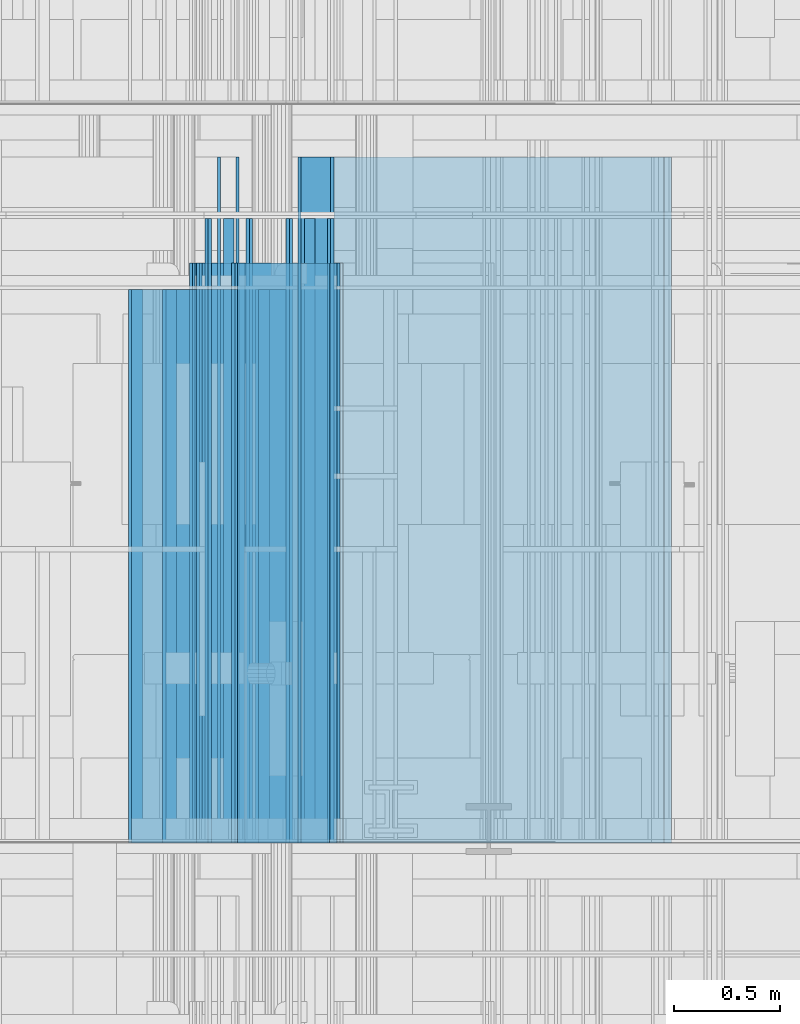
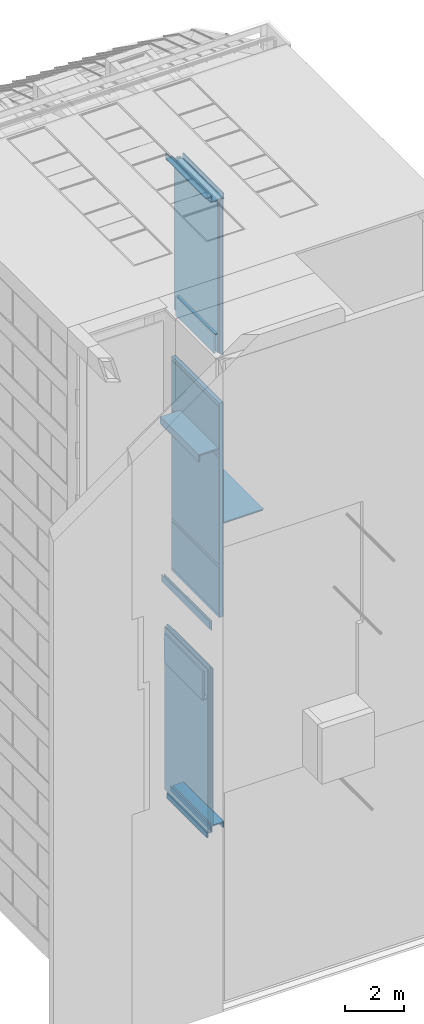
# One storey, part 106 of 583: 61 building element parts, 21 elements without a shape of their own.
"""IFC2X3 building model written with IfcOpenShell, lengths in metres."""

from ifc_helpers import new_model, entity, si_unit, converted_unit, derived_unit, money_unit, direction, frame, frame_2d, origin_with_axes, place, context, subcontext, project, spatial, polyline, rectangle, outline, extrude, material, type_object, element, aggregate, save


model = new_model("IFC2X3")

# Units and contexts
model_context = context("Model", 3, precision=1e-05, world=origin_with_axes(), true_north=direction((0.0, 1.0)))
body_context = subcontext(model_context, "Body", "Model", "MODEL_VIEW", scale=1.0)
ifc_project = project(units=[si_unit("LENGTHUNIT", "METRE"), si_unit("AREAUNIT", "SQUARE_METRE"), si_unit("VOLUMEUNIT", "CUBIC_METRE"), si_unit("ABSORBEDDOSEUNIT", "GRAY"), si_unit("AMOUNTOFSUBSTANCEUNIT", "MOLE"), si_unit("DOSEEQUIVALENTUNIT", "SIEVERT"), si_unit("ELECTRICCAPACITANCEUNIT", "FARAD"), si_unit("ELECTRICCHARGEUNIT", "COULOMB"), si_unit("ELECTRICCONDUCTANCEUNIT", "SIEMENS"), si_unit("ELECTRICCURRENTUNIT", "AMPERE"), si_unit("ELECTRICRESISTANCEUNIT", "OHM"), si_unit("ELECTRICVOLTAGEUNIT", "VOLT"), si_unit("ENERGYUNIT", "JOULE"), si_unit("FORCEUNIT", "NEWTON"), si_unit("FREQUENCYUNIT", "HERTZ"), si_unit("ILLUMINANCEUNIT", "LUX"), si_unit("INDUCTANCEUNIT", "HENRY"), si_unit("LUMINOUSFLUXUNIT", "LUMEN"), si_unit("LUMINOUSINTENSITYUNIT", "CANDELA"), si_unit("MAGNETICFLUXDENSITYUNIT", "TESLA"), si_unit("MAGNETICFLUXUNIT", "WEBER"), si_unit("MASSUNIT", "GRAM"), converted_unit("PLANEANGLEUNIT", "degree", entity("IfcReal", 0.0174532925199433), si_unit("PLANEANGLEUNIT", "RADIAN"), dimensions=[0, 0, 0, 0, 0, 0, 0]), si_unit("POWERUNIT", "WATT"), si_unit("PRESSUREUNIT", "PASCAL"), si_unit("RADIOACTIVITYUNIT", "BECQUEREL"), si_unit("SOLIDANGLEUNIT", "STERADIAN"), si_unit("THERMODYNAMICTEMPERATUREUNIT", "KELVIN"), si_unit("TIMEUNIT", "SECOND"), derived_unit("ACCELERATIONUNIT", [(si_unit("LENGTHUNIT", "METRE"), 1), (si_unit("TIMEUNIT", "SECOND"), -2)]), derived_unit("ANGULARVELOCITYUNIT", [(converted_unit("PLANEANGLEUNIT", "degree", entity("IfcReal", 0.0174532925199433), si_unit("PLANEANGLEUNIT", "RADIAN"), dimensions=[0, 0, 0, 0, 0, 0, 0]), 1), (si_unit("TIMEUNIT", "SECOND"), -1)]), derived_unit("CURVATUREUNIT", [(converted_unit("PLANEANGLEUNIT", "degree", entity("IfcReal", 0.0174532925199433), si_unit("PLANEANGLEUNIT", "RADIAN"), dimensions=[0, 0, 0, 0, 0, 0, 0]), 1), (si_unit("LENGTHUNIT", "METRE"), -1)]), derived_unit("DYNAMICVISCOSITYUNIT", [(si_unit("PRESSUREUNIT", "PASCAL"), 1), (si_unit("TIMEUNIT", "SECOND"), 1)]), derived_unit("HEATFLUXDENSITYUNIT", [(si_unit("POWERUNIT", "WATT"), 1), (si_unit("LENGTHUNIT", "METRE"), -2)]), derived_unit("HEATINGVALUEUNIT", [(si_unit("ENERGYUNIT", "JOULE"), 1), (si_unit("MASSUNIT", "GRAM"), -1)]), derived_unit("INTEGERCOUNTRATEUNIT", [(si_unit("TIMEUNIT", "SECOND"), -1)]), derived_unit("IONCONCENTRATIONUNIT", [(si_unit("MASSUNIT", "GRAM"), 1), (si_unit("VOLUMEUNIT", "CUBIC_METRE"), -1)]), derived_unit("ISOTHERMALMOISTURECAPACITYUNIT", [(si_unit("VOLUMEUNIT", "CUBIC_METRE"), 1), (si_unit("MASSUNIT", "GRAM"), -1)]), derived_unit("KINEMATICVISCOSITYUNIT", [(si_unit("AREAUNIT", "SQUARE_METRE"), 1), (si_unit("TIMEUNIT", "SECOND"), -1)]), derived_unit("LINEARFORCEUNIT", [(si_unit("FORCEUNIT", "NEWTON"), 1), (si_unit("LENGTHUNIT", "METRE"), -1)]), derived_unit("LINEARMOMENTUNIT", [(si_unit("FORCEUNIT", "NEWTON"), 1), (si_unit("LENGTHUNIT", "METRE"), -1)]), derived_unit("LINEARSTIFFNESSUNIT", [(si_unit("FORCEUNIT", "NEWTON"), 1), (si_unit("LENGTHUNIT", "METRE"), -1)]), derived_unit("LINEARVELOCITYUNIT", [(si_unit("LENGTHUNIT", "METRE"), 1), (si_unit("TIMEUNIT", "SECOND"), -1)]), derived_unit("LUMINOUSINTENSITYDISTRIBUTIONUNIT", [(si_unit("LUMINOUSINTENSITYUNIT", "CANDELA"), 1), (si_unit("LUMINOUSFLUXUNIT", "LUMEN"), -1)]), derived_unit("MASSDENSITYUNIT", [(si_unit("MASSUNIT", "GRAM"), 1), (si_unit("VOLUMEUNIT", "CUBIC_METRE"), -1)]), derived_unit("MASSFLOWRATEUNIT", [(si_unit("MASSUNIT", "GRAM"), 1), (si_unit("TIMEUNIT", "SECOND"), -1)]), derived_unit("MASSPERLENGTHUNIT", [(si_unit("MASSUNIT", "GRAM"), 1), (si_unit("LENGTHUNIT", "METRE"), -1)]), derived_unit("MODULUSOFELASTICITYUNIT", [(si_unit("FORCEUNIT", "NEWTON"), 1), (si_unit("AREAUNIT", "SQUARE_METRE"), -1)]), derived_unit("MODULUSOFLINEARSUBGRADEREACTIONUNIT", [(si_unit("FORCEUNIT", "NEWTON"), 1), (si_unit("LENGTHUNIT", "METRE"), -2)]), derived_unit("MODULUSOFROTATIONALSUBGRADEREACTIONUNIT", [(si_unit("FORCEUNIT", "NEWTON"), 1), (si_unit("LENGTHUNIT", "METRE"), 1)]), derived_unit("MODULUSOFSUBGRADEREACTIONUNIT", [(si_unit("FORCEUNIT", "NEWTON"), 1), (si_unit("VOLUMEUNIT", "CUBIC_METRE"), -1)]), derived_unit("MOISTUREDIFFUSIVITYUNIT", [(si_unit("VOLUMEUNIT", "CUBIC_METRE"), 1), (si_unit("TIMEUNIT", "SECOND"), -1)]), derived_unit("MOLECULARWEIGHTUNIT", [(si_unit("MASSUNIT", "GRAM"), 1), (si_unit("AMOUNTOFSUBSTANCEUNIT", "MOLE"), -1)]), derived_unit("PLANARFORCEUNIT", [(si_unit("FORCEUNIT", "NEWTON"), 1), (si_unit("LENGTHUNIT", "METRE"), -2)]), derived_unit("ROTATIONALFREQUENCYUNIT", [(si_unit("TIMEUNIT", "SECOND"), -1)]), derived_unit("ROTATIONALMASSUNIT", [(si_unit("MASSUNIT", "GRAM"), 1), (si_unit("LENGTHUNIT", "METRE"), 2)]), derived_unit("ROTATIONALSTIFFNESSUNIT", [(si_unit("FORCEUNIT", "NEWTON"), 1), (si_unit("LENGTHUNIT", "METRE"), 1), (converted_unit("PLANEANGLEUNIT", "degree", entity("IfcReal", 0.0174532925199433), si_unit("PLANEANGLEUNIT", "RADIAN"), dimensions=[0, 0, 0, 0, 0, 0, 0]), -1)]), derived_unit("SECTIONAREAINTEGRALUNIT", [(si_unit("LENGTHUNIT", "METRE"), 5)]), derived_unit("SECTIONMODULUSUNIT", [(si_unit("LENGTHUNIT", "METRE"), 3)]), derived_unit("SHEARMODULUSUNIT", [(si_unit("FORCEUNIT", "NEWTON"), 1), (si_unit("AREAUNIT", "SQUARE_METRE"), -1)]), derived_unit("SOUNDPOWERUNIT", [(si_unit("ENERGYUNIT", "JOULE"), 1), (si_unit("TIMEUNIT", "SECOND"), -1)]), derived_unit("SPECIFICHEATCAPACITYUNIT", [(si_unit("FORCEUNIT", "NEWTON"), 1), (si_unit("MASSUNIT", "GRAM"), -1), (si_unit("THERMODYNAMICTEMPERATUREUNIT", "KELVIN"), -1)]), derived_unit("TEMPERATUREGRADIENTUNIT", [(si_unit("THERMODYNAMICTEMPERATUREUNIT", "KELVIN"), 1), (si_unit("LENGTHUNIT", "METRE"), -1)]), derived_unit("THERMALADMITTANCEUNIT", [(si_unit("POWERUNIT", "WATT"), 1), (si_unit("AREAUNIT", "SQUARE_METRE"), -1), (si_unit("THERMODYNAMICTEMPERATUREUNIT", "KELVIN"), -1)]), derived_unit("THERMALCONDUCTANCEUNIT", [(si_unit("POWERUNIT", "WATT"), 1), (si_unit("LENGTHUNIT", "METRE"), -1), (si_unit("THERMODYNAMICTEMPERATUREUNIT", "KELVIN"), -1)]), derived_unit("THERMALEXPANSIONCOEFFICIENTUNIT", [(si_unit("THERMODYNAMICTEMPERATUREUNIT", "KELVIN"), -1)]), derived_unit("THERMALRESISTANCEUNIT", [(si_unit("AREAUNIT", "SQUARE_METRE"), 1), (si_unit("POWERUNIT", "WATT"), -1)]), derived_unit("THERMALTRANSMITTANCEUNIT", [(si_unit("POWERUNIT", "WATT"), 1), (si_unit("AREAUNIT", "SQUARE_METRE"), -1), (si_unit("THERMODYNAMICTEMPERATUREUNIT", "KELVIN"), -1)]), derived_unit("TORQUEUNIT", [(si_unit("FORCEUNIT", "NEWTON"), 1), (si_unit("LENGTHUNIT", "METRE"), 1)]), derived_unit("VAPORPERMEABILITYUNIT", [(si_unit("MASSUNIT", "GRAM"), 1), (si_unit("TIMEUNIT", "SECOND"), -1)]), derived_unit("VOLUMETRICFLOWRATEUNIT", [(si_unit("VOLUMEUNIT", "CUBIC_METRE"), 1), (si_unit("TIMEUNIT", "SECOND"), -1)]), derived_unit("WARPINGCONSTANTUNIT", [(si_unit("LENGTHUNIT", "METRE"), 6)]), derived_unit("WARPINGMOMENTUNIT", [(si_unit("FORCEUNIT", "NEWTON"), 1), (si_unit("LENGTHUNIT", "METRE"), 2)]), money_unit("GBP")], contexts=[model_context])

# Site, building, storey
site_placement = place(None, origin_with_axes())
site = spatial("IfcSite", under=ifc_project, at=site_placement, Name="Site", CompositionType="ELEMENT")
building_placement = place(site_placement, origin_with_axes())
building = spatial("IfcBuilding", under=site, at=building_placement, Name="Building01", CompositionType="ELEMENT")
storey_placement = place(building_placement, frame((0.0, 0.0, 20.78), z_axis=(0.0, 0.0, 1.0), x_axis=(1.0, 0.0, 0.0)))
storey = spatial("IfcBuildingStorey", under=building, at=storey_placement, Name="RL", CompositionType="ELEMENT", Elevation=20.78)

# Wall, building element parts
wall_type_1 = type_object("IfcWallType", Name="SHE_A-Walls_Type01c_Partywall_225mm_twin_tall", PredefinedType="NOTDEFINED")
wall_1_placement = place(storey_placement, frame((8.34767, 8.64, -13.628331), z_axis=(0.0, 1.0, 0.0), x_axis=(0.0, 0.0, -1.0)))
wall_1 = element("IfcWall", 1, at=wall_1_placement, inside=storey, type_object=wall_type_1, Name="1C", ObjectType="SHE_A-Walls_Type01c_Partywall_225mm_twin_tall")
ifc_material_1 = material(Name="A_BSUK_Insulation")
placement_1 = place(wall_1_placement, origin_with_axes())
building_element_part_1 = element("IfcBuildingElementPart", 2, at=placement_1, material=ifc_material_1, Name="1", context=body_context, shape_type="SweptSolid", body=[
    extrude(rectangle(XDim=6.881669, YDim=0.05, at=frame_2d((3.440834, 0.025), x_axis=(-1.0, 0.0))), origin_with_axes(), (0.0, 0.0, 1.0), 2.95),
])
ifc_material_2 = material(Name="A_BSUK_WallInternal_Finishes_Plasterboard")
building_element_part_2 = element("IfcBuildingElementPart", 3, at=placement_1, material=ifc_material_2, Name="3", context=body_context, shape_type="SweptSolid", body=[
    extrude(rectangle(XDim=6.746669, YDim=0.015, at=frame_2d((3.445334, 0.1295), x_axis=(-1.0, 0.0))), origin_with_axes(), (0.0, 0.0, 1.0), 2.95),
])
building_element_part_3 = element("IfcBuildingElementPart", 4, at=placement_1, material=ifc_material_2, Name="4", context=body_context, shape_type="SweptSolid", body=[
    extrude(rectangle(XDim=6.776669, YDim=0.015, at=frame_2d((3.445334, 0.1145), x_axis=(-1.0, 0.0))), origin_with_axes(), (0.0, 0.0, 1.0), 2.95),
])
building_element_part_4 = element("IfcBuildingElementPart", 5, at=placement_1, material=ifc_material_2, Name="5", context=body_context, shape_type="SweptSolid", body=[
    extrude(outline(polyline([(6.603669, -0.058), (0.057, -0.058), (0.072, -0.073), (6.603669, -0.073), (6.603669, -0.058)])), origin_with_axes(), (0.0, 0.0, 1.0), 2.95),
])
building_element_part_5 = element("IfcBuildingElementPart", 6, at=placement_1, material=ifc_material_2, Name="6", context=body_context, shape_type="SweptSolid", body=[
    extrude(outline(polyline([(6.603669, -0.073), (0.072, -0.073), (0.087, -0.088), (6.603669, -0.088), (6.603669, -0.073)])), origin_with_axes(), (0.0, 0.0, 1.0), 2.95),
])
aggregate(wall_1, [building_element_part_1, building_element_part_2, building_element_part_3, building_element_part_4, building_element_part_5])

wall_type_2 = type_object("IfcWallType", Name="SHE_A-Walls_Type05a_Partition_95mm_tall", PredefinedType="NOTDEFINED")
wall_2_placement = place(storey_placement, frame((10.38, 8.64, -7.851415), z_axis=(0.0, 1.0, 0.0), x_axis=(-1.0, 0.0, 0.0)))
wall_2 = element("IfcWall", 7, at=wall_2_placement, inside=storey, type_object=wall_type_2, Name="5A", ObjectType="SHE_A-Walls_Type05a_Partition_95mm_tall")
placement_2 = place(wall_2_placement, origin_with_axes())
building_element_part_6 = element("IfcBuildingElementPart", 8, at=placement_2, material=ifc_material_1, Name="1", context=body_context, shape_type="SweptSolid", body=[
    extrude(rectangle(XDim=1.56, YDim=0.025, at=frame_2d((0.78, 0.0125), x_axis=(-1.0, 0.0))), origin_with_axes(), (0.0, 0.0, 1.0), 3.24),
])
building_element_part_7 = element("IfcBuildingElementPart", 9, at=placement_2, material=ifc_material_2, Name="4", context=body_context, shape_type="SweptSolid", body=[
    extrude(outline(polyline([(1.56, 0.06), (-0.035, 0.06), (-0.023, 0.048), (1.56, 0.048), (1.56, 0.06)])), origin_with_axes(), (0.0, 0.0, 1.0), 3.24),
])
aggregate(wall_2, [building_element_part_6, building_element_part_7])

wall_type_3 = type_object("IfcWallType", Name="SHE_A-Walls_Type05c_PreWallShell_65mm", PredefinedType="NOTDEFINED")
wall_3_placement = place(storey_placement, frame((7.915, 8.64, -4.715), z_axis=(0.0, 1.0, 0.0), x_axis=(1.0, 0.0, 0.0)))
wall_3 = element("IfcWall", 10, at=wall_3_placement, inside=storey, type_object=wall_type_3, Name="5C", ObjectType="SHE_A-Walls_Type05c_PreWallShell_65mm")
ifc_material_3 = material(Name="A_BSUK_OpeningsClearance")
placement_3 = place(wall_3_placement, origin_with_axes())
building_element_part_8 = element("IfcBuildingElementPart", 11, at=placement_3, material=ifc_material_3, Name="1", context=body_context, shape_type="SweptSolid", body=[
    extrude(outline(polyline([(0.75, 0.0), (0.0, 0.0), (-0.05, -0.05), (0.75, -0.05), (0.75, 0.0)])), origin_with_axes(), (0.0, 0.0, 1.0), 2.615),
])
ifc_material_4 = material(Name="A_BSUK_Walls_Timber")
building_element_part_9 = element("IfcBuildingElementPart", 12, at=placement_3, material=ifc_material_4, Name="2", context=body_context, shape_type="SweptSolid", body=[
    extrude(outline(polyline([(0.72, -0.05), (-0.05, -0.05), (-0.065, -0.065), (0.72, -0.065), (0.72, -0.05)])), origin_with_axes(), (0.0, 0.0, 1.0), 2.615),
])
aggregate(wall_3, [building_element_part_8, building_element_part_9])

wall_4_placement = place(storey_placement, frame((7.915, 8.64, -4.965), z_axis=(0.0, 1.0, 0.0), x_axis=(0.0, 0.0, 1.0)))
wall_4 = element("IfcWall", 13, at=wall_4_placement, inside=storey, type_object=wall_type_3, Name="5C", ObjectType="SHE_A-Walls_Type05c_PreWallShell_65mm")
placement_4 = place(wall_4_placement, origin_with_axes())
building_element_part_10 = element("IfcBuildingElementPart", 14, at=placement_4, material=ifc_material_3, Name="1", context=body_context, shape_type="SweptSolid", body=[
    extrude(outline(polyline([(0.25, 0.0), (0.0, 0.0), (0.0, -0.05), (0.3, -0.05), (0.25, 0.0)])), origin_with_axes(), (0.0, 0.0, 1.0), 2.615),
])
building_element_part_11 = element("IfcBuildingElementPart", 15, at=placement_4, material=ifc_material_4, Name="2", context=body_context, shape_type="SweptSolid", body=[
    extrude(outline(polyline([(0.3, -0.05), (0.03, -0.05), (0.03, -0.065), (0.315, -0.065), (0.3, -0.05)])), origin_with_axes(), (0.0, 0.0, 1.0), 2.615),
])
aggregate(wall_4, [building_element_part_10, building_element_part_11])

wall_5_placement = place(storey_placement, frame((8.732, 8.64, 5.664), z_axis=(0.0, 1.0, 0.0), x_axis=(0.0, 0.0, -1.0)))
wall_5 = element("IfcWall", 16, at=wall_5_placement, inside=storey, type_object=wall_type_1, Name="1C", ObjectType="SHE_A-Walls_Type01c_Partywall_225mm_twin_tall")
placement_5 = place(wall_5_placement, origin_with_axes())
building_element_part_12 = element("IfcBuildingElementPart", 17, at=placement_5, material=ifc_material_1, Name="1", context=body_context, shape_type="SweptSolid", body=[
    extrude(outline(polyline([(6.408339, 0.05), (0.0, 0.05), (0.0, 0.0), (6.458339, 0.0), (6.408339, 0.05)])), origin_with_axes(), (0.0, 0.0, 1.0), 2.95),
])
building_element_part_13 = element("IfcBuildingElementPart", 18, at=placement_5, material=ifc_material_2, Name="3", context=body_context, shape_type="SweptSolid", body=[
    extrude(rectangle(XDim=6.294339, YDim=0.015, at=frame_2d((3.174169, 0.1295), x_axis=(-1.0, 0.0))), origin_with_axes(), (0.0, 0.0, 1.0), 2.95),
])
building_element_part_14 = element("IfcBuildingElementPart", 19, at=placement_5, material=ifc_material_2, Name="4", context=body_context, shape_type="SweptSolid", body=[
    extrude(rectangle(XDim=0.015, YDim=6.339339, at=frame_2d((3.181669, 0.1145), x_axis=(0.0, -1.0))), origin_with_axes(), (0.0, 0.0, 1.0), 2.95),
])
building_element_part_15 = element("IfcBuildingElementPart", 20, at=placement_5, material=ifc_material_2, Name="5", context=body_context, shape_type="SweptSolid", body=[
    extrude(rectangle(XDim=6.504339, YDim=0.015, at=frame_2d((3.264169, -0.0655), x_axis=(-1.0, 0.0))), origin_with_axes(), (0.0, 0.0, 1.0), 2.95),
])
building_element_part_16 = element("IfcBuildingElementPart", 21, at=placement_5, material=ifc_material_2, Name="6", context=body_context, shape_type="SweptSolid", body=[
    extrude(rectangle(XDim=6.504339, YDim=0.015, at=frame_2d((3.279169, -0.0805), x_axis=(-1.0, 0.0))), origin_with_axes(), (0.0, 0.0, 1.0), 2.95),
])
aggregate(wall_5, [building_element_part_12, building_element_part_13, building_element_part_14, building_element_part_15, building_element_part_16])

wall_type_4 = type_object("IfcWallType", Name="SHE_A-Walls_Type04c_RiserWall_102mm_tall", PredefinedType="NOTDEFINED")
wall_6_placement = place(storey_placement, frame((8.372405, 8.655, -12.122), z_axis=(0.0, 1.0, 0.0), x_axis=(0.0, 0.0, 1.0)))
wall_6 = element("IfcWall", 22, at=wall_6_placement, inside=storey, type_object=wall_type_4, Name="4C", ObjectType="SHE_A-Walls_Type04c_RiserWall_102mm_tall")
placement_6 = place(wall_6_placement, origin_with_axes())
building_element_part_17 = element("IfcBuildingElementPart", 23, at=placement_6, material=ifc_material_2, Name="2", context=body_context, shape_type="SweptSolid", body=[
    extrude(rectangle(XDim=0.402, YDim=0.015, at=frame_2d((0.201, -0.0075), x_axis=(-1.0, 0.0))), frame((0.0, 0.0, -0.015), z_axis=(0.0, 0.0, 1.0), x_axis=(1.0, 0.0, 0.0)), (0.0, 0.0, 1.0), 3.24),
])
building_element_part_18 = element("IfcBuildingElementPart", 24, at=placement_6, material=ifc_material_2, Name="3", context=body_context, shape_type="SweptSolid", body=[
    extrude(outline(polyline([(0.402, -0.087), (0.087, -0.087), (0.102, -0.102), (0.402, -0.102), (0.402, -0.087)])), frame((0.0, 0.0, -0.015), z_axis=(0.0, 0.0, 1.0), x_axis=(1.0, 0.0, 0.0)), (0.0, 0.0, 1.0), 3.24),
])
aggregate(wall_6, [building_element_part_17, building_element_part_18])

wall_type_5 = type_object("IfcWallType", Name="SHE_A-Walls_Type03a_BlockworkWall_170mm", PredefinedType="NOTDEFINED")
wall_7_placement = place(storey_placement, frame((8.805, 8.64, -2.795), z_axis=(0.0, 1.0, 0.0), x_axis=(0.0, 0.0, -1.0)))
wall_7 = element("IfcWall", 25, at=wall_7_placement, inside=storey, type_object=wall_type_5, Name="4B", ObjectType="SHE_A-Walls_Type03a_BlockworkWall_170mm")
ifc_material_5 = material(Name="A_BSUK_WallsInternal_Block")
placement_7 = place(wall_7_placement, origin_with_axes())
building_element_part_19 = element("IfcBuildingElementPart", 26, at=placement_7, material=ifc_material_5, Name="1", context=body_context, shape_type="SweptSolid", body=[
    extrude(rectangle(XDim=8.91, YDim=0.14, at=frame_2d((4.455, 0.07), x_axis=(-1.0, 0.0))), origin_with_axes(), (0.0, 0.0, 1.0), 3.24),
])
ifc_material_6 = material(Name="A_BSUK_WallInternal_Finishes_Plaster")
building_element_part_20 = element("IfcBuildingElementPart", 27, at=placement_7, material=ifc_material_6, Name="3", context=body_context, shape_type="SweptSolid", body=[
    extrude(rectangle(XDim=2.0, YDim=0.015, at=frame_2d((1.155, 0.1475), x_axis=(-1.0, 0.0))), origin_with_axes(), (0.0, 0.0, 1.0), 3.24),
])
building_element_part_21 = element("IfcBuildingElementPart", 28, at=placement_7, material=ifc_material_2, Name="4", context=body_context, shape_type="SweptSolid", body=[
    extrude(rectangle(XDim=8.91, YDim=0.015, at=frame_2d((4.455, -0.0075), x_axis=(-1.0, 0.0))), origin_with_axes(), (0.0, 0.0, 1.0), 3.24),
])
building_element_part_22 = element("IfcBuildingElementPart", 29, at=placement_7, material=ifc_material_6, Name="6", context=body_context, shape_type="SweptSolid", body=[
    extrude(rectangle(XDim=1.93, YDim=0.015, at=frame_2d((7.805, 0.1475), x_axis=(-1.0, 0.0))), origin_with_axes(), (0.0, 0.0, 1.0), 3.24),
])
building_element_part_23 = element("IfcBuildingElementPart", 30, at=placement_7, material=ifc_material_6, Name="7", context=body_context, shape_type="SweptSolid", body=[
    extrude(rectangle(XDim=4.43, YDim=0.015, at=frame_2d((4.485, 0.1475), x_axis=(-1.0, 0.0))), origin_with_axes(), (0.0, 0.0, 1.0), 3.24),
])
aggregate(wall_7, [building_element_part_19, building_element_part_20, building_element_part_21, building_element_part_22, building_element_part_23])

wall_8_placement = place(storey_placement, frame((8.515, 8.64, 0.127661), z_axis=(0.0, 1.0, 0.0), x_axis=(0.0, 0.0, -1.0)))
wall_8 = element("IfcWall", 31, at=wall_8_placement, inside=storey, type_object=wall_type_3, Name="5C", ObjectType="SHE_A-Walls_Type05c_PreWallShell_65mm")
placement_8 = place(wall_8_placement, origin_with_axes())
building_element_part_24 = element("IfcBuildingElementPart", 32, at=placement_8, material=ifc_material_3, Name="1", context=body_context, shape_type="SweptSolid", body=[
    extrude(rectangle(XDim=0.785, YDim=0.05, at=frame_2d((0.3925, 0.025), x_axis=(-1.0, 0.0))), origin_with_axes(), (0.0, 0.0, 1.0), 2.615),
])
building_element_part_25 = element("IfcBuildingElementPart", 33, at=placement_8, material=ifc_material_4, Name="2", context=body_context, shape_type="SweptSolid", body=[
    extrude(rectangle(XDim=0.8, YDim=0.015, at=frame_2d((0.385, 0.0575), x_axis=(-1.0, 0.0))), origin_with_axes(), (0.0, 0.0, 1.0), 2.615),
])
aggregate(wall_8, [building_element_part_24, building_element_part_25])

wall_9_placement = place(storey_placement, frame((8.595, 8.64, 0.077661), z_axis=(0.0, 1.0, 0.0), x_axis=(-1.0, 0.0, 0.0)))
wall_9 = element("IfcWall", 34, at=wall_9_placement, inside=storey, type_object=wall_type_3, Name="5C", ObjectType="SHE_A-Walls_Type05c_PreWallShell_65mm")
placement_9 = place(wall_9_placement, origin_with_axes())
building_element_part_26 = element("IfcBuildingElementPart", 35, at=placement_9, material=ifc_material_3, Name="1", context=body_context, shape_type="SweptSolid", body=[
    extrude(rectangle(XDim=0.08, YDim=0.05, at=frame_2d((0.04, 0.025), x_axis=(-1.0, 0.0))), origin_with_axes(), (0.0, 0.0, 1.0), 2.615),
])
building_element_part_27 = element("IfcBuildingElementPart", 36, at=placement_9, material=ifc_material_4, Name="2", context=body_context, shape_type="SweptSolid", body=[
    extrude(rectangle(XDim=0.13, YDim=0.015, at=frame_2d((0.065, 0.0575), x_axis=(-1.0, 0.0))), origin_with_axes(), (0.0, 0.0, 1.0), 2.615),
])
aggregate(wall_9, [building_element_part_26, building_element_part_27])

wall_10_placement = place(storey_placement, frame((8.21067, 8.64, -14.850331), z_axis=(0.0, 1.0, 0.0), x_axis=(1.0, 0.0, 0.0)))
wall_10 = element("IfcWall", 37, at=wall_10_placement, inside=storey, type_object=wall_type_3, Name="5C", ObjectType="SHE_A-Walls_Type05c_PreWallShell_65mm")
placement_10 = place(wall_10_placement, origin_with_axes())
building_element_part_28 = element("IfcBuildingElementPart", 38, at=placement_10, material=ifc_material_3, Name="1", context=body_context, shape_type="SweptSolid", body=[
    extrude(rectangle(XDim=0.185, YDim=0.05, at=frame_2d((-0.0925, 0.025), x_axis=(1.0, 0.0))), origin_with_axes(), (0.0, 0.0, 1.0), 2.615),
])
building_element_part_29 = element("IfcBuildingElementPart", 39, at=placement_10, material=ifc_material_4, Name="2", context=body_context, shape_type="SweptSolid", body=[
    extrude(rectangle(XDim=0.2, YDim=0.015, at=frame_2d((-0.1, 0.0575), x_axis=(1.0, 0.0))), origin_with_axes(), (0.0, 0.0, 1.0), 2.615),
])
aggregate(wall_10, [building_element_part_28, building_element_part_29])

wall_11_placement = place(storey_placement, frame((8.07567, 8.64, -14.850331), z_axis=(0.0, 1.0, 0.0), x_axis=(0.0, 0.0, 1.0)))
wall_11 = element("IfcWall", 40, at=wall_11_placement, inside=storey, type_object=wall_type_3, Name="5C", ObjectType="SHE_A-Walls_Type05c_PreWallShell_65mm")
placement_11 = place(wall_11_placement, origin_with_axes())
building_element_part_30 = element("IfcBuildingElementPart", 41, at=placement_11, material=ifc_material_3, Name="1", context=body_context, shape_type="SweptSolid", body=[
    extrude(rectangle(XDim=1.135, YDim=0.05, at=frame_2d((0.5675, -0.025), x_axis=(-1.0, 0.0))), origin_with_axes(), (0.0, 0.0, 1.0), 2.615),
])
building_element_part_31 = element("IfcBuildingElementPart", 42, at=placement_11, material=ifc_material_4, Name="2", context=body_context, shape_type="SweptSolid", body=[
    extrude(rectangle(XDim=1.185, YDim=0.015, at=frame_2d((0.5425, -0.0575), x_axis=(-1.0, 0.0))), origin_with_axes(), (0.0, 0.0, 1.0), 2.615),
])
aggregate(wall_11, [building_element_part_30, building_element_part_31])

wall_type_6 = type_object("IfcWallType", Name="SHE_A-Walls_Type06f_ExternalWallInsulation_48+15mm", PredefinedType="NOTDEFINED")
wall_12_placement = place(storey_placement, frame((8.200326, 8.64, 5.93), z_axis=(0.0, 1.0, 0.0), x_axis=(0.0, 0.0, 1.0)))
wall_12 = element("IfcWall", 43, at=wall_12_placement, inside=storey, type_object=wall_type_6, Name="6F", ObjectType="SHE_A-Walls_Type06f_ExternalWallInsulation_48+15mm")
placement_12 = place(wall_12_placement, origin_with_axes())
building_element_part_32 = element("IfcBuildingElementPart", 44, at=placement_12, material=ifc_material_1, Name="1", context=body_context, shape_type="SweptSolid", body=[
    extrude(rectangle(XDim=0.17, YDim=0.036, at=frame_2d((0.085, -0.018), x_axis=(-1.0, 0.0))), origin_with_axes(), (0.0, 0.0, 1.0), 2.74),
])
building_element_part_33 = element("IfcBuildingElementPart", 45, at=placement_12, material=ifc_material_2, Name="3", context=body_context, shape_type="SweptSolid", body=[
    extrude(outline(polyline([(0.17, -0.048), (-0.048, -0.048), (-0.063, -0.063), (0.17, -0.063), (0.17, -0.048)])), origin_with_axes(), (0.0, 0.0, 1.0), 2.74),
])
building_element_part_34 = element("IfcBuildingElementPart", 46, at=placement_12, material=ifc_material_2, Name="4", context=body_context, shape_type="SweptSolid", body=[
    extrude(rectangle(XDim=0.206, YDim=0.012, at=frame_2d((0.067, -0.042), x_axis=(-1.0, 0.0))), origin_with_axes(), (0.0, 0.0, 1.0), 2.74),
])
aggregate(wall_12, [building_element_part_32, building_element_part_33, building_element_part_34])

wall_13_placement = place(storey_placement, frame((8.4, 8.64, 5.7), z_axis=(0.0, 1.0, 0.0), x_axis=(0.0, 0.0, 1.0)))
wall_13 = element("IfcWall", 47, at=wall_13_placement, inside=storey, type_object=wall_type_6, Name="6F", ObjectType="SHE_A-Walls_Type06f_ExternalWallInsulation_48+15mm")
placement_13 = place(wall_13_placement, origin_with_axes())
building_element_part_35 = element("IfcBuildingElementPart", 48, at=placement_13, material=ifc_material_1, Name="1", context=body_context, shape_type="SweptSolid", body=[
    extrude(rectangle(XDim=0.23, YDim=0.036, at=frame_2d((0.115, -0.018), x_axis=(-1.0, 0.0))), origin_with_axes(), (0.0, 0.0, 1.0), 2.74),
])
building_element_part_36 = element("IfcBuildingElementPart", 49, at=placement_13, material=ifc_material_2, Name="3", context=body_context, shape_type="SweptSolid", body=[
    extrude(outline(polyline([(0.167, -0.048), (-0.048, -0.048), (-0.063, -0.063), (0.167, -0.063), (0.167, -0.048)])), origin_with_axes(), (0.0, 0.0, 1.0), 2.74),
])
building_element_part_37 = element("IfcBuildingElementPart", 50, at=placement_13, material=ifc_material_2, Name="4", context=body_context, shape_type="SweptSolid", body=[
    extrude(rectangle(XDim=0.23, YDim=0.012, at=frame_2d((0.067, -0.042), x_axis=(-1.0, 0.0))), origin_with_axes(), (0.0, 0.0, 1.0), 2.74),
])
aggregate(wall_13, [building_element_part_35, building_element_part_36, building_element_part_37])

wall_14_placement = place(storey_placement, frame((8.8, 8.64, 5.894), z_axis=(0.0, 1.0, 0.0), x_axis=(0.0, 0.0, -1.0)))
wall_14 = element("IfcWall", 51, at=wall_14_placement, inside=storey, type_object=wall_type_6, Name="6F", ObjectType="SHE_A-Walls_Type06f_ExternalWallInsulation_48+15mm")
placement_14 = place(wall_14_placement, origin_with_axes())
building_element_part_38 = element("IfcBuildingElementPart", 52, at=placement_14, material=ifc_material_1, Name="1", context=body_context, shape_type="SweptSolid", body=[
    extrude(rectangle(XDim=0.23, YDim=0.036, at=frame_2d((0.115, -0.018), x_axis=(-1.0, 0.0))), origin_with_axes(), (0.0, 0.0, 1.0), 2.74),
])
building_element_part_39 = element("IfcBuildingElementPart", 53, at=placement_14, material=ifc_material_2, Name="4", context=body_context, shape_type="SweptSolid", body=[
    extrude(rectangle(XDim=0.242, YDim=0.012, at=frame_2d((0.121, -0.042), x_axis=(-1.0, 0.0))), origin_with_axes(), (0.0, 0.0, 1.0), 2.74),
])
aggregate(wall_14, [building_element_part_38, building_element_part_39])

wall_15_placement = place(storey_placement, frame((8.164326, 8.64, 5.93), z_axis=(0.0, 1.0, 0.0), x_axis=(1.0, 0.0, 0.0)))
wall_15 = element("IfcWall", 54, at=wall_15_placement, inside=storey, type_object=wall_type_6, Name="6F", ObjectType="SHE_A-Walls_Type06f_ExternalWallInsulation_48+15mm")
placement_15 = place(wall_15_placement, origin_with_axes())
building_element_part_40 = element("IfcBuildingElementPart", 55, at=placement_15, material=ifc_material_1, Name="1", context=body_context, shape_type="SweptSolid", body=[
    extrude(rectangle(XDim=0.199674, YDim=0.036, at=frame_2d((0.099837, 0.018), x_axis=(-1.0, 0.0))), origin_with_axes(), (0.0, 0.0, 1.0), 2.74),
])
building_element_part_41 = element("IfcBuildingElementPart", 56, at=placement_15, material=ifc_material_2, Name="3", context=body_context, shape_type="SweptSolid", body=[
    extrude(outline(polyline([(0.187674, 0.063), (-0.027, 0.063), (-0.012, 0.048), (0.187674, 0.048), (0.187674, 0.063)])), origin_with_axes(), (0.0, 0.0, 1.0), 2.74),
])
building_element_part_42 = element("IfcBuildingElementPart", 57, at=placement_15, material=ifc_material_2, Name="4", context=body_context, shape_type="SweptSolid", body=[
    extrude(rectangle(XDim=0.211674, YDim=0.012, at=frame_2d((0.093837, 0.042), x_axis=(-1.0, 0.0))), origin_with_axes(), (0.0, 0.0, 1.0), 2.74),
])
aggregate(wall_15, [building_element_part_40, building_element_part_41, building_element_part_42])

wall_16_placement = place(storey_placement, frame((8.233, 8.64, -20.51), z_axis=(0.0, 1.0, 0.0), x_axis=(0.0, 0.0, -1.0)))
wall_16 = element("IfcWall", 58, at=wall_16_placement, inside=storey, type_object=wall_type_6, Name="6F", ObjectType="SHE_A-Walls_Type06f_ExternalWallInsulation_48+15mm")
placement_16 = place(wall_16_placement, origin_with_axes())
building_element_part_43 = element("IfcBuildingElementPart", 59, at=placement_16, material=ifc_material_1, Name="1", context=body_context, shape_type="SweptSolid", body=[
    extrude(rectangle(XDim=0.17, YDim=0.036, at=frame_2d((0.085, 0.018), x_axis=(-1.0, 0.0))), origin_with_axes(), (0.0, 0.0, 1.0), 2.74),
])
building_element_part_44 = element("IfcBuildingElementPart", 60, at=placement_16, material=ifc_material_2, Name="3", context=body_context, shape_type="SweptSolid", body=[
    extrude(outline(polyline([(0.17, 0.063), (-0.063, 0.063), (-0.048, 0.048), (0.17, 0.048), (0.17, 0.063)])), origin_with_axes(), (0.0, 0.0, 1.0), 2.74),
])
building_element_part_45 = element("IfcBuildingElementPart", 61, at=placement_16, material=ifc_material_2, Name="4", context=body_context, shape_type="SweptSolid", body=[
    extrude(rectangle(XDim=0.206, YDim=0.012, at=frame_2d((0.067, 0.042), x_axis=(-1.0, 0.0))), origin_with_axes(), (0.0, 0.0, 1.0), 2.74),
])
aggregate(wall_16, [building_element_part_43, building_element_part_44, building_element_part_45])

wall_17_placement = place(storey_placement, frame((8.4, 8.64, -20.28), z_axis=(0.0, 1.0, 0.0), x_axis=(0.0, 0.0, 1.0)))
wall_17 = element("IfcWall", 62, at=wall_17_placement, inside=storey, type_object=wall_type_6, Name="6F", ObjectType="SHE_A-Walls_Type06f_ExternalWallInsulation_48+15mm")
placement_17 = place(wall_17_placement, origin_with_axes())
building_element_part_46 = element("IfcBuildingElementPart", 63, at=placement_17, material=ifc_material_1, Name="1", context=body_context, shape_type="SweptSolid", body=[
    extrude(rectangle(XDim=0.23, YDim=0.036, at=frame_2d((-0.115, -0.018), x_axis=(1.0, 0.0))), origin_with_axes(), (0.0, 0.0, 1.0), 2.74),
])
building_element_part_47 = element("IfcBuildingElementPart", 64, at=placement_17, material=ifc_material_2, Name="3", context=body_context, shape_type="SweptSolid", body=[
    extrude(outline(polyline([(-0.167, -0.063), (0.063, -0.063), (0.048, -0.048), (-0.167, -0.048), (-0.167, -0.063)])), origin_with_axes(), (0.0, 0.0, 1.0), 2.74),
])
building_element_part_48 = element("IfcBuildingElementPart", 65, at=placement_17, material=ifc_material_2, Name="4", context=body_context, shape_type="SweptSolid", body=[
    extrude(rectangle(XDim=0.23, YDim=0.012, at=frame_2d((-0.067, -0.042), x_axis=(1.0, 0.0))), origin_with_axes(), (0.0, 0.0, 1.0), 2.74),
])
aggregate(wall_17, [building_element_part_46, building_element_part_47, building_element_part_48])

wall_18_placement = place(storey_placement, frame((8.8, 8.64, -20.28), z_axis=(0.0, 1.0, 0.0), x_axis=(1.0, 0.0, 0.0)))
wall_18 = element("IfcWall", 66, at=wall_18_placement, inside=storey, type_object=wall_type_6, Name="6F", ObjectType="SHE_A-Walls_Type06f_ExternalWallInsulation_48+15mm")
placement_18 = place(wall_18_placement, origin_with_axes())
building_element_part_49 = element("IfcBuildingElementPart", 67, at=placement_18, material=ifc_material_1, Name="1", context=body_context, shape_type="SweptSolid", body=[
    extrude(rectangle(XDim=0.436, YDim=0.036, at=frame_2d((-0.218, -0.018), x_axis=(1.0, 0.0))), origin_with_axes(), (0.0, 0.0, 1.0), 2.74),
])
building_element_part_50 = element("IfcBuildingElementPart", 68, at=placement_18, material=ifc_material_2, Name="3", context=body_context, shape_type="SweptSolid", body=[
    extrude(outline(polyline([(-0.36433, -0.063), (0.063, -0.063), (0.048, -0.048), (-0.36433, -0.048), (-0.36433, -0.063)])), origin_with_axes(), (0.0, 0.0, 1.0), 2.74),
])
building_element_part_51 = element("IfcBuildingElementPart", 69, at=placement_18, material=ifc_material_2, Name="4", context=body_context, shape_type="SweptSolid", body=[
    extrude(rectangle(XDim=0.43033, YDim=0.012, at=frame_2d((-0.179165, -0.042), x_axis=(1.0, 0.0))), origin_with_axes(), (0.0, 0.0, 1.0), 2.74),
])
aggregate(wall_18, [building_element_part_49, building_element_part_50, building_element_part_51])

wall_19_placement = place(storey_placement, frame((8.8, 8.64, -20.474), z_axis=(0.0, 1.0, 0.0), x_axis=(0.0, 0.0, -1.0)))
wall_19 = element("IfcWall", 70, at=wall_19_placement, inside=storey, type_object=wall_type_6, Name="6F", ObjectType="SHE_A-Walls_Type06f_ExternalWallInsulation_48+15mm")
placement_19 = place(wall_19_placement, origin_with_axes())
building_element_part_52 = element("IfcBuildingElementPart", 71, at=placement_19, material=ifc_material_1, Name="1", context=body_context, shape_type="SweptSolid", body=[
    extrude(rectangle(XDim=0.23, YDim=0.036, at=frame_2d((-0.115, -0.018), x_axis=(1.0, 0.0))), origin_with_axes(), (0.0, 0.0, 1.0), 2.74),
])
building_element_part_53 = element("IfcBuildingElementPart", 72, at=placement_19, material=ifc_material_2, Name="4", context=body_context, shape_type="SweptSolid", body=[
    extrude(rectangle(XDim=0.242, YDim=0.012, at=frame_2d((-0.121, -0.042), x_axis=(1.0, 0.0))), origin_with_axes(), (0.0, 0.0, 1.0), 2.74),
])
aggregate(wall_19, [building_element_part_52, building_element_part_53])

wall_20_placement = place(storey_placement, frame((8.197, 8.64, -20.51), z_axis=(0.0, 1.0, 0.0), x_axis=(1.0, 0.0, 0.0)))
wall_20 = element("IfcWall", 73, at=wall_20_placement, inside=storey, type_object=wall_type_6, Name="6F", ObjectType="SHE_A-Walls_Type06f_ExternalWallInsulation_48+15mm")
placement_20 = place(wall_20_placement, origin_with_axes())
building_element_part_54 = element("IfcBuildingElementPart", 74, at=placement_20, material=ifc_material_1, Name="1", context=body_context, shape_type="SweptSolid", body=[
    extrude(rectangle(XDim=0.167, YDim=0.036, at=frame_2d((0.0835, -0.018), x_axis=(-1.0, 0.0))), origin_with_axes(), (0.0, 0.0, 1.0), 2.74),
])
building_element_part_55 = element("IfcBuildingElementPart", 75, at=placement_20, material=ifc_material_2, Name="3", context=body_context, shape_type="SweptSolid", body=[
    extrude(outline(polyline([(0.02867, -0.048), (-0.012, -0.048), (-0.027, -0.063), (0.02867, -0.063), (0.02867, -0.048)])), origin_with_axes(), (0.0, 0.0, 1.0), 2.74),
])
building_element_part_56 = element("IfcBuildingElementPart", 76, at=placement_20, material=ifc_material_2, Name="4", context=body_context, shape_type="SweptSolid", body=[
    extrude(rectangle(XDim=0.05567, YDim=0.012, at=frame_2d((0.015835, -0.042), x_axis=(-1.0, 0.0))), origin_with_axes(), (0.0, 0.0, 1.0), 2.74),
])
aggregate(wall_20, [building_element_part_54, building_element_part_55, building_element_part_56])

wall_21_placement = place(storey_placement, frame((8.8, 8.64, 5.7), z_axis=(0.0, 1.0, 0.0), x_axis=(-1.0, 0.0, 0.0)))
wall_21 = element("IfcWall", 77, at=wall_21_placement, inside=storey, type_object=wall_type_6, Name="6F", ObjectType="SHE_A-Walls_Type06f_ExternalWallInsulation_48+15mm")
placement_21 = place(wall_21_placement, origin_with_axes())
building_element_part_57 = element("IfcBuildingElementPart", 78, at=placement_21, material=ifc_material_1, Name="1", context=body_context, shape_type="SweptSolid", body=[
    extrude(rectangle(XDim=0.436, YDim=0.036, at=frame_2d((0.218, -0.018), x_axis=(-1.0, 0.0))), origin_with_axes(), (0.0, 0.0, 1.0), 2.74),
])
building_element_part_58 = element("IfcBuildingElementPart", 79, at=placement_21, material=ifc_material_2, Name="3", context=body_context, shape_type="SweptSolid", body=[
    extrude(outline(polyline([(-0.048, -0.048), (-0.063, -0.063), (-0.005, -0.063), (-0.005, -0.048), (-0.048, -0.048)])), origin_with_axes(), (0.0, 0.0, 1.0), 2.74),
])
building_element_part_59 = element("IfcBuildingElementPart", 80, at=placement_21, material=ifc_material_2, Name="5", context=body_context, shape_type="SweptSolid", body=[
    extrude(outline(polyline([(0.448, -0.048), (0.19, -0.048), (0.19, -0.063), (0.463, -0.063), (0.448, -0.048)])), origin_with_axes(), (0.0, 0.0, 1.0), 2.74),
])
building_element_part_60 = element("IfcBuildingElementPart", 81, at=placement_21, material=ifc_material_2, Name="6", context=body_context, shape_type="SweptSolid", body=[
    extrude(rectangle(XDim=0.012, YDim=0.046, at=frame_2d((-0.013, -0.042), x_axis=(0.0, -1.0))), origin_with_axes(), (0.0, 0.0, 1.0), 2.74),
])
building_element_part_61 = element("IfcBuildingElementPart", 82, at=placement_21, material=ifc_material_2, Name="7", context=body_context, shape_type="SweptSolid", body=[
    extrude(rectangle(XDim=0.261, YDim=0.012, at=frame_2d((0.3055, -0.042), x_axis=(-1.0, 0.0))), origin_with_axes(), (0.0, 0.0, 1.0), 2.74),
])
aggregate(wall_21, [building_element_part_57, building_element_part_58, building_element_part_59, building_element_part_60, building_element_part_61])

save(model, "model.ifc")
